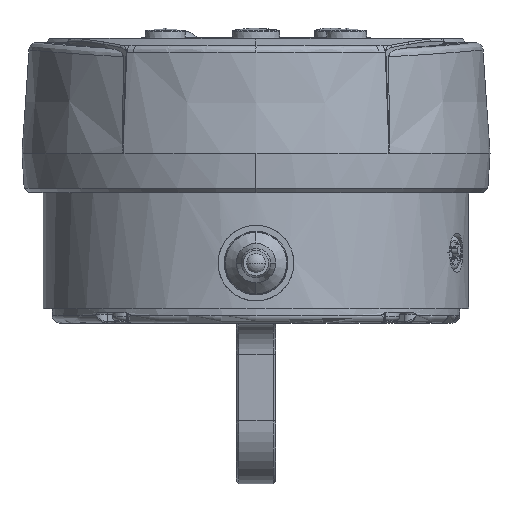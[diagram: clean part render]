
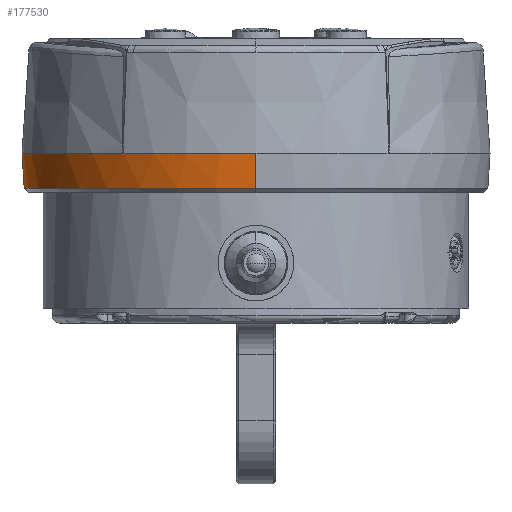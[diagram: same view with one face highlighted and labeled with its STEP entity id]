
A CAD part, front view. The second image highlights one B-rep face of the part: STEP entity #177530.
In plain terms, the highlighted conical face has half-angle 4 degrees and reference radius 29.7 mm.
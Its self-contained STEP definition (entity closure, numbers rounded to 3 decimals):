
#176190=CARTESIAN_POINT('',(0.,29.389,
9.496));
#176200=VERTEX_POINT('',#176190);
#176230=CARTESIAN_POINT('',(0.,0.,9.496));
#176240=DIRECTION('',(0.,0.,1.));
#176250=DIRECTION('',(0.,1.,0.));
#176260=AXIS2_PLACEMENT_3D('',#176230,#176240,#176250);
#176270=CIRCLE('',#176260,29.389);
#176280=CARTESIAN_POINT('',(-10.365,27.5,
9.496));
#176290=VERTEX_POINT('',#176280);
#176300=EDGE_CURVE('',#176200,#176290,#176270,.T.);
#176320=CARTESIAN_POINT('',(0.,-29.389,
9.496));
#176330=VERTEX_POINT('',#176320);
#176340=EDGE_CURVE('',#176290,#176330,#176270,.T.);
#176470=CARTESIAN_POINT('',(0.,0.,13.95));
#176480=DIRECTION('',(0.,0.,1.));
#176490=DIRECTION('',(0.,1.,0.));
#176500=AXIS2_PLACEMENT_3D('',#176470,#176480,#176490);
#176510=CONICAL_SURFACE('',#176500,29.7,0.07);
#176520=CARTESIAN_POINT('',(0.,29.7,13.95));
#176530=DIRECTION('',(0.,0.07,
0.998));
#176540=VECTOR('',#176530,425.767);
#176550=LINE('',#176520,#176540);
#176560=CARTESIAN_POINT('',(0.,29.7,
13.95));
#176570=VERTEX_POINT('',#176560);
#176580=EDGE_CURVE('',#176200,#176570,#176550,.T.);
#176590=ORIENTED_EDGE('',*,*,#176580,.F.);
#176600=CARTESIAN_POINT('',(0.,0.,
13.95));
#176610=DIRECTION('',(0.,0.,-1.));
#176620=DIRECTION('',(0.,-1.,0.));
#176630=AXIS2_PLACEMENT_3D('',#176600,#176610,#176620);
#176640=CIRCLE('',#176630,29.7);
#176650=CARTESIAN_POINT('',(-16.865,-24.447,
13.95));
#176660=VERTEX_POINT('',#176650);
#176670=EDGE_CURVE('',#176660,#176570,#176640,.T.);
#176680=ORIENTED_EDGE('',*,*,#176670,.T.);
#176690=CARTESIAN_POINT('',(-18.429,-25.898,
-26.136));
#176700=CARTESIAN_POINT('',(-18.14,-25.604,
-18.391));
#176710=CARTESIAN_POINT('',(-17.852,-25.311,
-10.645));
#176720=CARTESIAN_POINT('',(-17.275,-24.723,
4.845));
#176730=CARTESIAN_POINT('',(-16.987,-24.428,
12.591));
#176740=CARTESIAN_POINT('',(-16.621,-24.053,
22.462));
#176750=CARTESIAN_POINT('',(-16.542,-23.972,
24.588));
#176760=CARTESIAN_POINT('',(-16.463,-23.89,
26.717));
#176770=CARTESIAN_POINT('',(-16.463,-23.89,
26.72));
#176780=CARTESIAN_POINT('',(-16.463,-23.89,
26.724));
#176790=CARTESIAN_POINT('',(-18.41,-25.924,
-26.136));
#176800=CARTESIAN_POINT('',(-18.121,-25.631,
-18.391));
#176810=CARTESIAN_POINT('',(-17.832,-25.338,
-10.645));
#176820=CARTESIAN_POINT('',(-17.255,-24.75,
4.846));
#176830=CARTESIAN_POINT('',(-16.967,-24.456,
12.591));
#176840=CARTESIAN_POINT('',(-16.601,-24.08,
22.462));
#176850=CARTESIAN_POINT('',(-16.522,-24.,
24.588));
#176860=CARTESIAN_POINT('',(-16.443,-23.918,
26.717));
#176870=CARTESIAN_POINT('',(-16.442,-23.918,
26.721));
#176880=CARTESIAN_POINT('',(-16.442,-23.918,
26.724));
#176890=CARTESIAN_POINT('',(-18.386,-25.947,
-26.136));
#176900=CARTESIAN_POINT('',(-18.097,-25.654,
-18.391));
#176910=CARTESIAN_POINT('',(-17.808,-25.361,
-10.645));
#176920=CARTESIAN_POINT('',(-17.231,-24.774,
4.846));
#176930=CARTESIAN_POINT('',(-16.943,-24.48,
12.591));
#176940=CARTESIAN_POINT('',(-16.576,-24.105,
22.462));
#176950=CARTESIAN_POINT('',(-16.497,-24.024,
24.588));
#176960=CARTESIAN_POINT('',(-16.418,-23.943,
26.717));
#176970=CARTESIAN_POINT('',(-16.418,-23.943,
26.721));
#176980=CARTESIAN_POINT('',(-16.417,-23.942,
26.724));
#176990=CARTESIAN_POINT('',(-18.36,-25.966,
-26.136));
#177000=CARTESIAN_POINT('',(-18.07,-25.673,
-18.391));
#177010=CARTESIAN_POINT('',(-17.781,-25.38,
-10.645));
#177020=CARTESIAN_POINT('',(-17.204,-24.793,
4.845));
#177030=CARTESIAN_POINT('',(-16.915,-24.499,
12.591));
#177040=CARTESIAN_POINT('',(-16.547,-24.124,
22.462));
#177050=CARTESIAN_POINT('',(-16.468,-24.043,
24.588));
#177060=CARTESIAN_POINT('',(-16.389,-23.962,
26.717));
#177070=CARTESIAN_POINT('',(-16.389,-23.962,
26.72));
#177080=CARTESIAN_POINT('',(-16.389,-23.962,
26.724));
#177090=(BOUNDED_SURFACE() B_SPLINE_SURFACE(3,3,((#176690,#176790,
#176890,#176990),(#176700,#176800,#176900,#177000),(#176710,#176810,
#176910,#177010),(#176720,#176820,#176920,#177020),(#176730,#176830,
#176930,#177030),(#176740,#176840,#176940,#177040),(#176750,#176850,
#176950,#177050),(#176760,#176860,#176960,#177060),(#176770,#176870,
#176970,#177070),(#176780,#176880,#176980,#177080)),.UNSPECIFIED.,.F.,
.F.,.F.) B_SPLINE_SURFACE_WITH_KNOTS((4,2,2,2,4),(4,4),(0.,
23.269,46.539,52.925,52.935),(0.
,1.),.UNSPECIFIED.) GEOMETRIC_REPRESENTATION_ITEM() 
RATIONAL_B_SPLINE_SURFACE(((1.,0.991,0.991,1.),(
1.,0.991,0.991,1.),(1.,0.991,
0.991,1.),(1.,0.991,0.991,1.),(1.,
0.99,0.99,1.),(1.,0.99,
0.99,1.),(1.,0.99,0.99,1.),(1.,
0.99,0.99,1.),(1.,0.99,
0.99,1.),(1.,0.99,0.99,1.))) 
REPRESENTATION_ITEM('') SURFACE());
#177100=CARTESIAN_POINT('',(0.,0.,13.95));
#177110=DIRECTION('',(0.,0.,1.));
#177120=DIRECTION('',(0.,1.,0.));
#177130=AXIS2_PLACEMENT_3D('',#177100,#177110,#177120);
#177140=CONICAL_SURFACE('',#177130,29.7,0.07);
#177150=CARTESIAN_POINT('',(-16.864,-24.448,
13.95));
#177160=CARTESIAN_POINT('',(-16.864,-24.448,
13.95));
#177170=CARTESIAN_POINT('',(-16.864,-24.448,
13.95));
#177180=CARTESIAN_POINT('',(-16.864,-24.448,
13.95));
#177190=CARTESIAN_POINT('',(-16.864,-24.447,
13.95));
#177200=CARTESIAN_POINT('',(-16.864,-24.447,
13.95));
#177210=CARTESIAN_POINT('',(-16.864,-24.447,
13.95));
#177220=CARTESIAN_POINT('',(-16.864,-24.447,
13.95));
#177230=CARTESIAN_POINT('',(-16.864,-24.447,
13.95));
#177240=CARTESIAN_POINT('',(-16.864,-24.447,
13.95));
#177250=CARTESIAN_POINT('',(-16.865,-24.447,
13.95));
#177260=CARTESIAN_POINT('',(-16.865,-24.447,
13.95));
#177270=CARTESIAN_POINT('',(-16.865,-24.447,
13.95));
#177280=B_SPLINE_CURVE_WITH_KNOTS('',3,(#177150,#177160,#177170,#177180,
#177190,#177200,#177210,#177220,#177230,#177240,#177250,#177260,#177270)
,.UNSPECIFIED.,.T.,.F.,(4,3,3,3,4),(0.,0.,
0.,0.,0.),
.UNSPECIFIED.);
#177290=SURFACE_CURVE('',#177280,(#177090,#177140),.CURVE_3D.);
#177300=CARTESIAN_POINT('',(-16.864,-24.448,
13.95));
#177310=VERTEX_POINT('',#177300);
#177320=EDGE_CURVE('',#177310,#176660,#177290,.T.);
#177330=ORIENTED_EDGE('',*,*,#177320,.T.);
#177340=CARTESIAN_POINT('',(0.,0.,
13.95));
#177350=DIRECTION('',(0.,0.,-1.));
#177360=DIRECTION('',(0.,-1.,0.));
#177370=AXIS2_PLACEMENT_3D('',#177340,#177350,#177360);
#177380=CIRCLE('',#177370,29.7);
#177390=CARTESIAN_POINT('',(0.,-29.7,
13.95));
#177400=VERTEX_POINT('',#177390);
#177410=EDGE_CURVE('',#177400,#177310,#177380,.T.);
#177420=ORIENTED_EDGE('',*,*,#177410,.T.);
#177430=CARTESIAN_POINT('',(0.,-29.7,13.95));
#177440=DIRECTION('',(0.,-0.07,
0.998));
#177450=VECTOR('',#177440,425.767);
#177460=LINE('',#177430,#177450);
#177470=EDGE_CURVE('',#176330,#177400,#177460,.T.);
#177480=ORIENTED_EDGE('',*,*,#177470,.T.);
#177490=ORIENTED_EDGE('',*,*,#176340,.T.);
#177500=ORIENTED_EDGE('',*,*,#176300,.T.);
#177510=EDGE_LOOP('',(#177500,#177490,#177480,#177420,#177330,#176680,
#176590));
#177520=FACE_OUTER_BOUND('',#177510,.T.);
#177530=ADVANCED_FACE('',(#177520),#176510,.T.);
